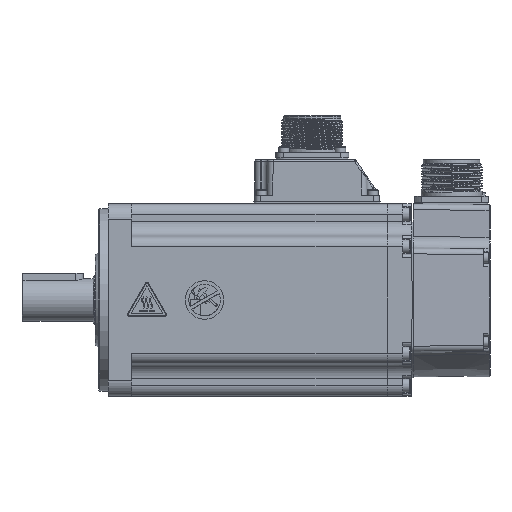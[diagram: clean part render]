
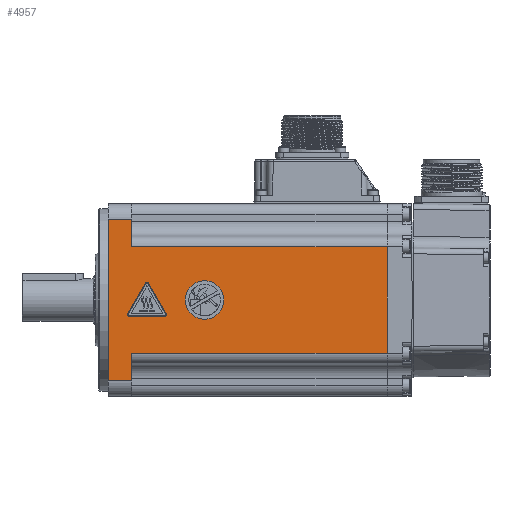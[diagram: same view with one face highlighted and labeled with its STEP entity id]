
A CAD part, front view. The second image highlights one B-rep face of the part: STEP entity #4957.
In plain terms, the highlighted planar face has unit normal (0, -1, 0) as drawn and (1, 0, 0) by its records, which use the part's own axes.
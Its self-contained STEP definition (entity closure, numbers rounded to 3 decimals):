
#4957 = ADVANCED_FACE( '', ( #11134 ), #11135, .T. );
#11134 = FACE_OUTER_BOUND( '', #21693, .T. );
#11135 = PLANE( '', #21694 );
#21693 = EDGE_LOOP( '', ( #41189, #41190, #41191, #41192, #41193, #41194, #41195, #41196 ) );
#21694 = AXIS2_PLACEMENT_3D( '', #41197, #41198, #41199 );
#41189 = ORIENTED_EDGE( '', *, *, #58735, .F. );
#41190 = ORIENTED_EDGE( '', *, *, #60711, .T. );
#41191 = ORIENTED_EDGE( '', *, *, #60712, .F. );
#41192 = ORIENTED_EDGE( '', *, *, #60713, .T. );
#41193 = ORIENTED_EDGE( '', *, *, #60714, .T. );
#41194 = ORIENTED_EDGE( '', *, *, #60715, .T. );
#41195 = ORIENTED_EDGE( '', *, *, #60716, .F. );
#41196 = ORIENTED_EDGE( '', *, *, #60717, .T. );
#41197 = CARTESIAN_POINT( '', ( 50., 260.892, -50. ) );
#41198 = DIRECTION( '', ( 1., 0., 0. ) );
#41199 = DIRECTION( '', ( 0., 1., 0. ) );
#58735 = EDGE_CURVE( '', #69011, #69013, #69014, .T. );
#60711 = EDGE_CURVE( '', #69011, #72129, #72130, .T. );
#60712 = EDGE_CURVE( '', #72131, #72129, #72132, .T. );
#60713 = EDGE_CURVE( '', #72131, #72133, #72134, .T. );
#60714 = EDGE_CURVE( '', #72133, #72135, #72136, .T. );
#60715 = EDGE_CURVE( '', #72135, #72137, #72138, .F. );
#60716 = EDGE_CURVE( '', #72139, #72137, #72140, .T. );
#60717 = EDGE_CURVE( '', #72139, #69013, #72141, .T. );
#69011 = VERTEX_POINT( '', #83587 );
#69013 = VERTEX_POINT( '', #83589 );
#69014 = LINE( '', #83590, #83591 );
#72129 = VERTEX_POINT( '', #89744 );
#72130 = LINE( '', #89745, #89746 );
#72131 = VERTEX_POINT( '', #89747 );
#72132 = LINE( '', #89748, #89749 );
#72133 = VERTEX_POINT( '', #89750 );
#72134 = LINE( '', #89751, #89752 );
#72135 = VERTEX_POINT( '', #89753 );
#72136 = LINE( '', #89754, #89755 );
#72137 = VERTEX_POINT( '', #89756 );
#72138 = LINE( '', #89757, #89758 );
#72139 = VERTEX_POINT( '', #89759 );
#72140 = LINE( '', #89760, #89761 );
#72141 = LINE( '', #89762, #89763 );
#83587 = CARTESIAN_POINT( '', ( 50., 146., 27.75 ) );
#83589 = CARTESIAN_POINT( '', ( 50., 146., -27.75 ) );
#83590 = CARTESIAN_POINT( '', ( 50., 146., -50. ) );
#83591 = VECTOR( '', #105641, 1000. );
#89744 = CARTESIAN_POINT( '', ( 50., 13., 27.75 ) );
#89745 = CARTESIAN_POINT( '', ( 50., 260.892, 27.75 ) );
#89746 = VECTOR( '', #107870, 1000. );
#89747 = CARTESIAN_POINT( '', ( 50., 13., 42. ) );
#89748 = CARTESIAN_POINT( '', ( 50., 13., -50. ) );
#89749 = VECTOR( '', #107871, 1000. );
#89750 = CARTESIAN_POINT( '', ( 50., 1., 42. ) );
#89751 = CARTESIAN_POINT( '', ( 50., 260.892, 42. ) );
#89752 = VECTOR( '', #107872, 1000. );
#89753 = CARTESIAN_POINT( '', ( 50., 1., -42. ) );
#89754 = CARTESIAN_POINT( '', ( 50., 1., -50. ) );
#89755 = VECTOR( '', #107873, 1000. );
#89756 = CARTESIAN_POINT( '', ( 50., 13., -42. ) );
#89757 = CARTESIAN_POINT( '', ( 50., 260.892, -42. ) );
#89758 = VECTOR( '', #107874, 1000. );
#89759 = CARTESIAN_POINT( '', ( 50., 13., -27.75 ) );
#89760 = CARTESIAN_POINT( '', ( 50., 13., -50. ) );
#89761 = VECTOR( '', #107875, 1000. );
#89762 = CARTESIAN_POINT( '', ( 50., 260.892, -27.75 ) );
#89763 = VECTOR( '', #107876, 1000. );
#105641 = DIRECTION( '', ( 0., 0., -1. ) );
#107870 = DIRECTION( '', ( 0., -1., 0. ) );
#107871 = DIRECTION( '', ( 0., 0., -1. ) );
#107872 = DIRECTION( '', ( 0., -1., 0. ) );
#107873 = DIRECTION( '', ( 0., 0., -1. ) );
#107874 = DIRECTION( '', ( 0., -1., 0. ) );
#107875 = DIRECTION( '', ( 0., 0., -1. ) );
#107876 = DIRECTION( '', ( 0., 1., 0. ) );
